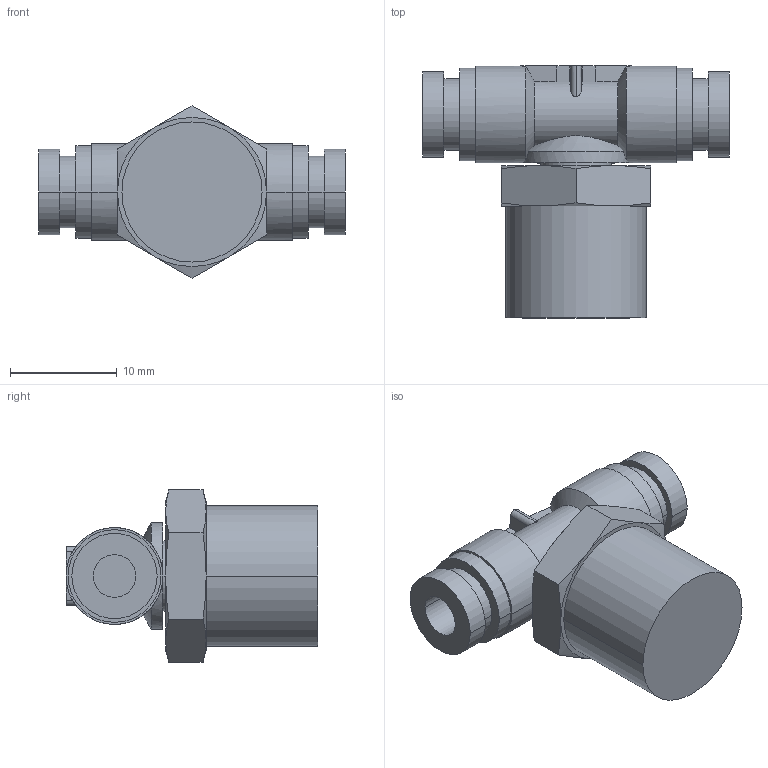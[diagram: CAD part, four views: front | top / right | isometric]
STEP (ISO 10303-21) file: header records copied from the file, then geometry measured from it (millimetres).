
FILE_DESCRIPTION( ( '' ), '1' );
FILE_NAME( 'G:/SMC狟婥/KQ2T04-02AS.stp', '2023-03-07T03:11:12', ( '' ), ( '' ), ' ', ' ', ' ' );
FILE_SCHEMA( ( 'CONFIG_CONTROL_DESIGN' ) );
Length unit declared in the file: millimetre
Products named in the file (1): 1
Bounding box: 28.8 x 23.65 x 16.17 mm (x, y, z)
Volume: 3336.1 mm3; surface area: 2275.7 mm2
Topology: 1 solids, 1 shells, 87 faces, 202 edges, 128 vertices
Faces by surface type: cylinder 36, plane 33, cone 18
Entity records: 2691 total; most frequent: CARTESIAN_POINT 709, DIRECTION 416, ORIENTED_EDGE 404, EDGE_CURVE 202, AXIS2_PLACEMENT_3D 176, VERTEX_POINT 128, EDGE_LOOP 98, ADVANCED_FACE 87
